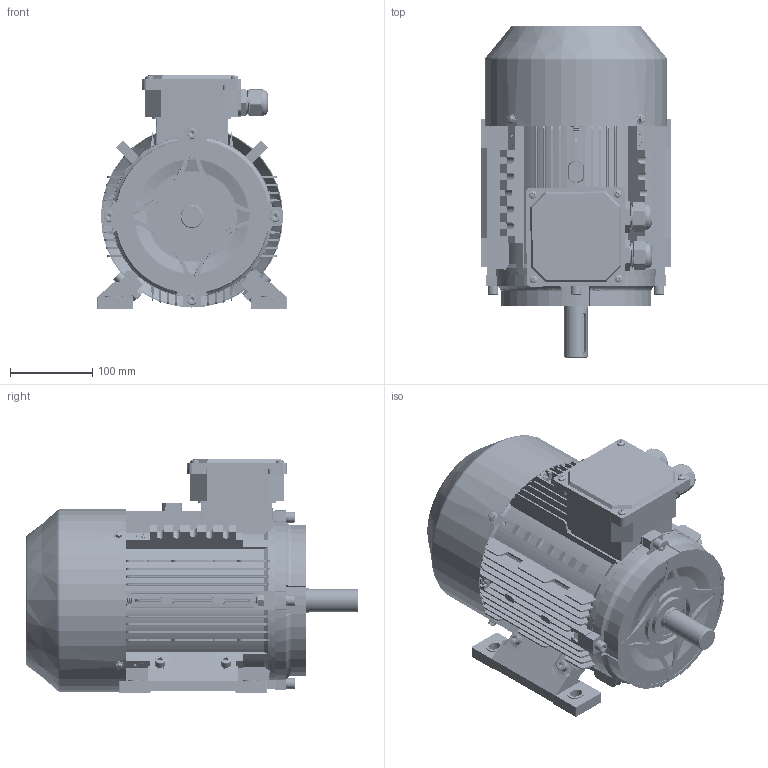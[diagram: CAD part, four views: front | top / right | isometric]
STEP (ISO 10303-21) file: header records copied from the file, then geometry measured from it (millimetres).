
FILE_DESCRIPTION (( 'STEP AP203' ), '1' );
FILE_NAME ('ME3-112B3 3D.STEP', '2024-07-12T06:58:12', ( 'User' ), ( 'China' ), 'SwSTEP 2.0', 'SolidWorks 2018', '' );
FILE_SCHEMA (( 'CONFIG_CONTROL_DESIGN' ));
Length unit declared in the file: millimetre
Products named in the file (18): ME3-112瑞欶; deep groove ball bearings gb_Rolling bearings 6306 GB 276-94; cross recessed pan head screws gb_GB_CROSS_SCREWS_TYPE1 M5X8-8  H type-S; ME3-112 转轴（386）; hex flange bolts-heavy grade b gb_GB_FASTENER_BOLT_HFBB M5X10-S; MS112-132 諉盄碟釱; M24 蹟杶; hexagon socket head cap screws gb_GB_FASTENER_SCREWS_HSHCS M8X40-S; M24 蹟杶簸; hex nuts-style normal-grades ab gb_GB_HEXAGON_TYPE10 M8X1-S; MS112-132諉盄碟裔; spring lock washers--normal type gb_GB_FASTENER_WASHER_SW 8; ME3-112 儂褲; ME3-112B3  3D; hexagon socket head cap screws gb_GB_FASTENER_SCREWS_HSHCS M8X30-S; ME3-112菁褐; 蚐猾45X30X7; ME3-112B3傷裔
Assembly tree (55 placements, depth 2):
  ME3-112B3  3D
    ME3-112 儂褲
    ME3-112菁褐  x2
    ME3-112B3傷裔  x2
    deep groove ball bearings gb_Rolling bearings 6306 GB 276-94  x2
    ME3-112 转轴（386）
    MS112-132 諉盄碟釱
    hexagon socket head cap screws gb_GB_FASTENER_SCREWS_HSHCS M8X40-S  x8
    hex nuts-style normal-grades ab gb_GB_HEXAGON_TYPE10 M8X1-S  x11
    spring lock washers--normal type gb_GB_FASTENER_WASHER_SW 8  x4
    hexagon socket head cap screws gb_GB_FASTENER_SCREWS_HSHCS M8X30-S  x4
    蚐猾45X30X7
    ME3-112瑞欶
    cross recessed pan head screws gb_GB_CROSS_SCREWS_TYPE1 M5X8-8  H type-S  x8
    hex flange bolts-heavy grade b gb_GB_FASTENER_BOLT_HFBB M5X10-S  x4
    M24 蹟杶  x2
    M24 蹟杶簸  x2
    MS112-132諉盄碟裔
Bounding box: 230.78 x 403.61 x 283.5 mm (x, y, z)
Volume: 2595674.7 mm3; surface area: 1303003.1 mm2
Topology: 55 solids, 56 shells, 8029 faces, 19250 edges, 11334 vertices
Faces by surface type: cone 3122, cylinder 2324, plane 2215, torus 252, sphere 72, bspline 44
Entity records: 116018 total; most frequent: CARTESIAN_POINT 29942, ORIENTED_EDGE 17840, DIRECTION 16841, EDGE_CURVE 8920, AXIS2_PLACEMENT_3D 5712, VERTEX_POINT 5668, LINE 5417, VECTOR 5417
